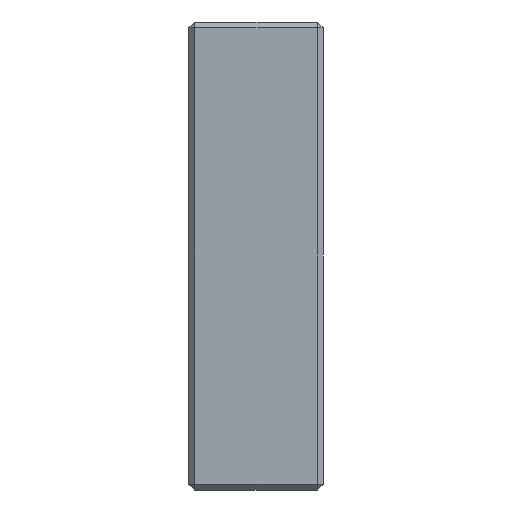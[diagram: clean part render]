
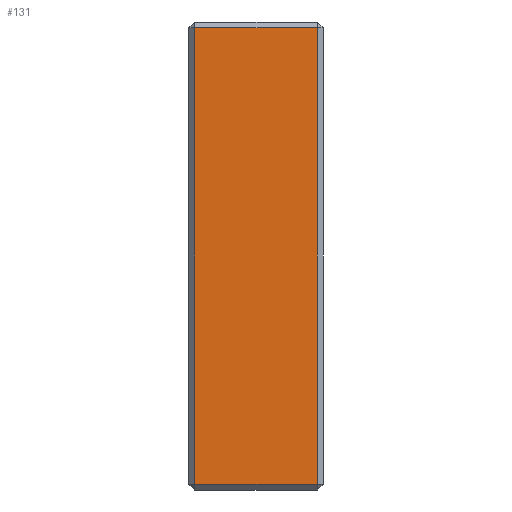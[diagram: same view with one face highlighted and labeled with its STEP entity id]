
A CAD part, left-side view. The second image highlights one B-rep face of the part: STEP entity #131.
In plain terms, the highlighted planar face has unit normal (-1, 0, 0).
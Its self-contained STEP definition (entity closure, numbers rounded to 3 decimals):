
#25 = DIRECTION ( 'NONE',  ( 0., 1., 0. ) ) ;
#101 = CARTESIAN_POINT ( 'NONE',  ( 0., 5.25, 19.5 ) ) ;
#131 = ADVANCED_FACE ( 'NONE', ( #834 ), #2137, .T. ) ;
#517 = EDGE_CURVE ( 'NONE', #5456, #5387, #1062, .T. ) ;
#672 = VECTOR ( 'NONE', #2064, 1000. ) ;
#740 = VERTEX_POINT ( 'NONE', #5361 ) ;
#758 = EDGE_LOOP ( 'NONE', ( #3286, #3217, #3072, #3000 ) ) ;
#834 = FACE_OUTER_BOUND ( 'NONE', #758, .T. ) ;
#1062 = LINE ( 'NONE', #2276, #672 ) ;
#1329 = LINE ( 'NONE', #2941, #4052 ) ;
#1398 = EDGE_CURVE ( 'NONE', #5387, #740, #3884, .T. ) ;
#1419 = AXIS2_PLACEMENT_3D ( 'NONE', #2529, #2197, #2222 ) ;
#1523 = EDGE_CURVE ( 'NONE', #1990, #5456, #1329, .T. ) ;
#1956 = CARTESIAN_POINT ( 'NONE',  ( 0., 5.25, -19.5 ) ) ;
#1990 = VERTEX_POINT ( 'NONE', #101 ) ;
#2064 = DIRECTION ( 'NONE',  ( 0., -1., 0. ) ) ;
#2137 = PLANE ( 'NONE',  #1419 ) ;
#2197 = DIRECTION ( 'NONE',  ( -1., 0., 0. ) ) ;
#2222 = DIRECTION ( 'NONE',  ( 0., 0., 1. ) ) ;
#2243 = LINE ( 'NONE', #5575, #3555 ) ;
#2276 = CARTESIAN_POINT ( 'NONE',  ( 0., -5.75, -19.5 ) ) ;
#2393 = CARTESIAN_POINT ( 'NONE',  ( 0., -5.25, -19.5 ) ) ;
#2529 = CARTESIAN_POINT ( 'NONE',  ( 0., 5.75, -20. ) ) ;
#2941 = CARTESIAN_POINT ( 'NONE',  ( 0., 5.25, -20. ) ) ;
#3000 = ORIENTED_EDGE ( 'NONE', *, *, #5398, .T. ) ;
#3072 = ORIENTED_EDGE ( 'NONE', *, *, #1398, .T. ) ;
#3169 = DIRECTION ( 'NONE',  ( 0., 0., -1. ) ) ;
#3217 = ORIENTED_EDGE ( 'NONE', *, *, #517, .T. ) ;
#3286 = ORIENTED_EDGE ( 'NONE', *, *, #1523, .T. ) ;
#3555 = VECTOR ( 'NONE', #25, 1000. ) ;
#3715 = CARTESIAN_POINT ( 'NONE',  ( 0., -5.25, 20. ) ) ;
#3770 = DIRECTION ( 'NONE',  ( 0., 0., 1. ) ) ;
#3884 = LINE ( 'NONE', #3715, #5525 ) ;
#4052 = VECTOR ( 'NONE', #3169, 1000. ) ;
#5361 = CARTESIAN_POINT ( 'NONE',  ( 0., -5.25, 19.5 ) ) ;
#5387 = VERTEX_POINT ( 'NONE', #2393 ) ;
#5398 = EDGE_CURVE ( 'NONE', #740, #1990, #2243, .T. ) ;
#5456 = VERTEX_POINT ( 'NONE', #1956 ) ;
#5525 = VECTOR ( 'NONE', #3770, 1000. ) ;
#5575 = CARTESIAN_POINT ( 'NONE',  ( 0., 5.75, 19.5 ) ) ;
